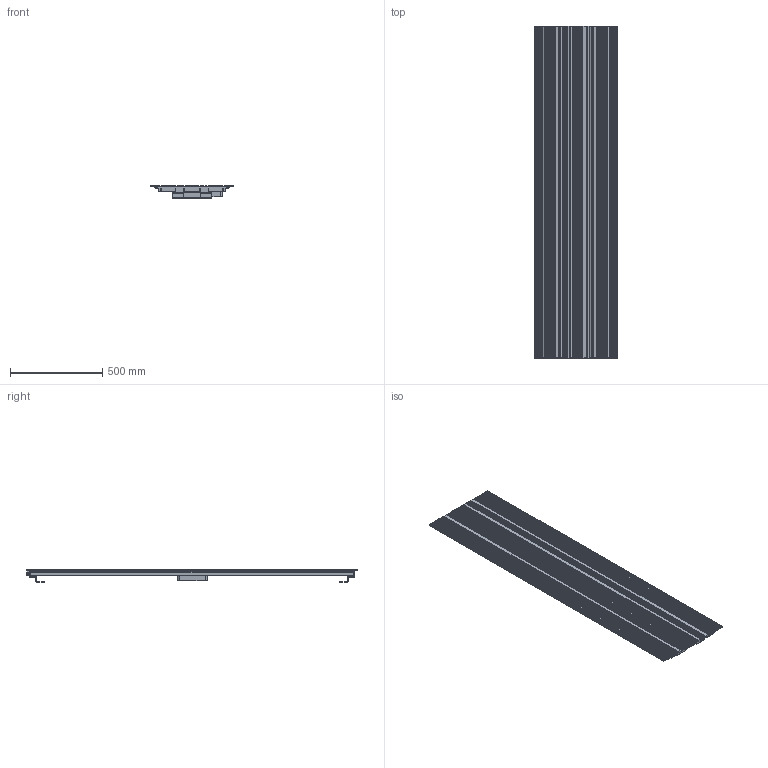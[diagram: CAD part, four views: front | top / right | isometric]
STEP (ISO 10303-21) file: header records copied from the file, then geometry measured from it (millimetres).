
FILE_DESCRIPTION((''),'2;1');
FILE_NAME('3583760000001_3D_SITO','2022-08-08T16:58:39',('pc104'),(''),'CREO PARAMETRIC BY PTC INC, 2022124','CREO PARAMETRIC BY PTC INC, 2022124','');
FILE_SCHEMA(('AUTOMOTIVE_DESIGN { 1 0 10303 214 1 1 1 1 }'));
Length unit declared in the file: millimetre
Products named in the file (1): 3583760000001_3D_SITO
Bounding box: 452 x 1800 x 68.2 mm (x, y, z)
Volume: 14875004 mm3; surface area: 2973687.1 mm2
Topology: 3 solids, 3 shells, 580 faces, 1653 edges, 1076 vertices
Faces by surface type: plane 325, cylinder 241, sphere 12, bspline 2
Entity records: 26738 total; most frequent: CARTESIAN_POINT 4112, DIRECTION 3486, ORIENTED_EDGE 3306, PRESENTATION_STYLE_ASSIGNMENT 1837, STYLED_ITEM 1837, CURVE_STYLE 1834, EDGE_CURVE 1653, VECTOR 1351
